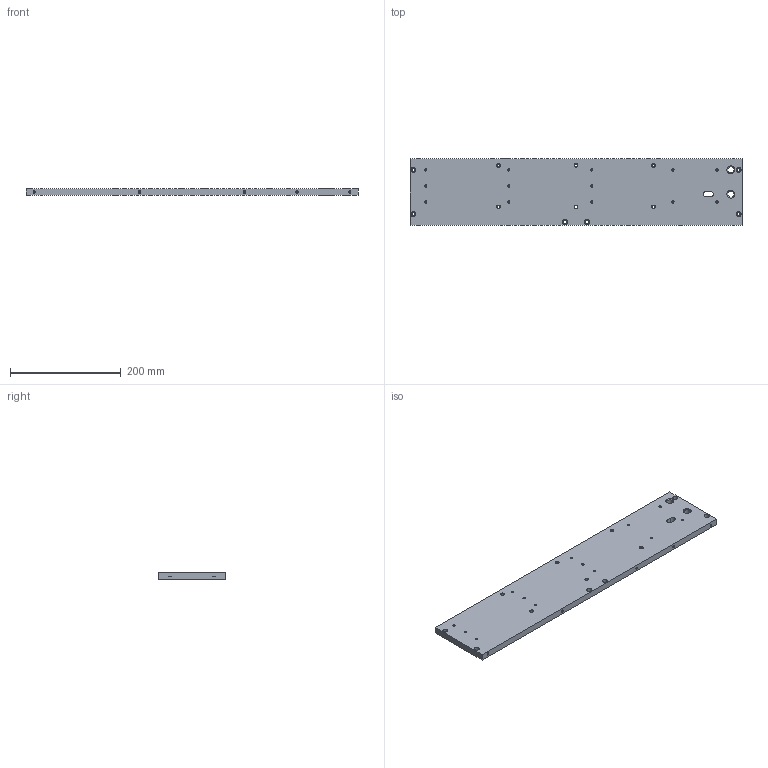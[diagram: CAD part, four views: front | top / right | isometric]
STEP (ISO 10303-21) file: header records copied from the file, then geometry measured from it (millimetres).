
FILE_DESCRIPTION(('STEP AP203'), '1');
FILE_NAME('ÒÏÏÔ1801.01.07.02.003 - Ïëèòà âåðõíÿÿ', '', ('UNSPECIFIED'), ('UNSPECIFIED'), 'C3D Converter', 'C3D Toolkit', '');
FILE_SCHEMA(('CONFIG_CONTROL_DESIGN'));
Length unit declared in the file: millimetre
Products named in the file (1): ТППФ1801.01.07.02.003
Bounding box: 600 x 120 x 12 mm (x, y, z)
Volume: 852421.5 mm3; surface area: 166761.4 mm2
Topology: 1 solids, 1 shells, 121 faces, 280 edges, 167 vertices
Faces by surface type: cone 59, cylinder 48, plane 14
Full cylindrical faces by diameter (mm): 3.242 x26, 4.917 x5, 5.5 x6, 6 x1, 9 x6, 11.445 x2
Entity records: 3902 total; most frequent: DIRECTION 548, CARTESIAN_POINT 438, ORIENTED_EDGE 324, EDGE_LOOP 288, AXIS2_PLACEMENT_3D 264, FACE_OUTER_BOUND 197, EDGE_CURVE 162, VERTEX_POINT 154
